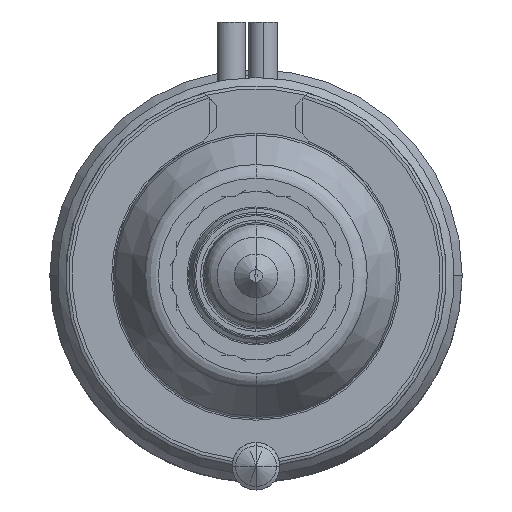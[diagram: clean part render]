
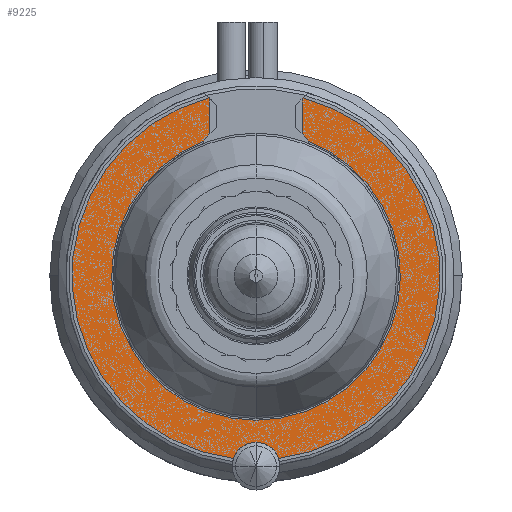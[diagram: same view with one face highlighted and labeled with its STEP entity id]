
A CAD part, front view. The second image highlights one B-rep face of the part: STEP entity #9225.
In plain terms, the highlighted planar face has unit normal (0, -1, 0).
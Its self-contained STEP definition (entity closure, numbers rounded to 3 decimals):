
#596=DIRECTION('',(0.707,0.,-0.707));
#597=VECTOR('',#596,0.092);
#598=CARTESIAN_POINT('',(-2.965,-22.,11.215));
#599=LINE('',#598,#597);
#1555=CARTESIAN_POINT('',(0.,-22.,6.2));
#1556=DIRECTION('',(0.,1.,0.));
#1557=DIRECTION('',(0.725,0.,0.689));
#1558=AXIS2_PLACEMENT_3D('',#1555,#1556,#1557);
#1570=CARTESIAN_POINT('',(0.,-22.,-12.));
#1571=DIRECTION('',(0.,1.,0.));
#1572=DIRECTION('',(-0.946,0.,0.325));
#1573=AXIS2_PLACEMENT_3D('',#1570,#1571,#1572);
#1589=CARTESIAN_POINT('',(0.,-22.,0.));
#1590=DIRECTION('',(0.,1.,0.));
#1591=DIRECTION('',(-0.122,0.,-0.992));
#1592=AXIS2_PLACEMENT_3D('',#1589,#1590,#1591);
#1601=CARTESIAN_POINT('',(0.,-22.,0.));
#1602=DIRECTION('',(0.,1.,0.));
#1603=DIRECTION('',(0.256,0.,0.967));
#1604=AXIS2_PLACEMENT_3D('',#1601,#1602,#1603);
#1617=DIRECTION('',(-0.707,0.,-0.707));
#1618=VECTOR('',#1617,0.092);
#1619=CARTESIAN_POINT('',(2.965,-22.,11.215));
#1620=LINE('',#1619,#1618);
#1625=DIRECTION('',(0.,0.,-1.));
#1626=VECTOR('',#1625,2.195);
#1627=CARTESIAN_POINT('',(2.9,-22.,11.15));
#1628=LINE('',#1627,#1626);
#1656=DIRECTION('',(0.,0.,1.));
#1657=VECTOR('',#1656,2.195);
#1658=CARTESIAN_POINT('',(-2.9,-22.,8.955));
#1659=LINE('',#1658,#1657);
#1691=CARTESIAN_POINT('',(0.,-22.,6.2));
#1692=DIRECTION('',(0.,1.,0.));
#1693=DIRECTION('',(-0.82,0.,0.572));
#1694=AXIS2_PLACEMENT_3D('',#1691,#1692,#1693);
#1706=CARTESIAN_POINT('',(0.,-22.,0.));
#1707=DIRECTION('',(0.,-1.,0.));
#1708=DIRECTION('',(-0.361,0.,0.933));
#1709=AXIS2_PLACEMENT_3D('',#1706,#1707,#1708);
#7413=CARTESIAN_POINT('',(2.965,-22.,11.215));
#7414=CARTESIAN_POINT('',(2.9,-22.,11.15));
#7415=VERTEX_POINT('',#7413);
#7416=VERTEX_POINT('',#7414);
#7421=CARTESIAN_POINT('',(-2.965,-22.,11.215));
#7422=CARTESIAN_POINT('',(-2.9,-22.,11.15));
#7423=VERTEX_POINT('',#7421);
#7424=VERTEX_POINT('',#7422);
#7459=CARTESIAN_POINT('',(2.9,-22.,8.955));
#7460=CARTESIAN_POINT('',(3.281,-22.,8.488));
#7461=VERTEX_POINT('',#7459);
#7462=VERTEX_POINT('',#7460);
#7463=CARTESIAN_POINT('',(-3.281,-22.,8.488));
#7464=CARTESIAN_POINT('',(-2.9,-22.,8.955));
#7465=VERTEX_POINT('',#7463);
#7466=VERTEX_POINT('',#7464);
#7608=CARTESIAN_POINT('',(-1.419,-22.,-11.513));
#7609=CARTESIAN_POINT('',(1.419,-22.,-11.513));
#7610=VERTEX_POINT('',#7608);
#7611=VERTEX_POINT('',#7609);
#9201=CARTESIAN_POINT('',(0.,-22.,0.));
#9202=DIRECTION('',(0.,-1.,0.));
#9203=DIRECTION('',(-1.,0.,0.));
#9204=AXIS2_PLACEMENT_3D('',#9201,#9202,#9203);
#9205=PLANE('',#9204);
#9206=ORIENTED_EDGE('',*,*,#8688,.F.);
#9208=ORIENTED_EDGE('',*,*,#9207,.T.);
#9209=ORIENTED_EDGE('',*,*,#8808,.T.);
#9211=ORIENTED_EDGE('',*,*,#9210,.F.);
#9213=ORIENTED_EDGE('',*,*,#9212,.F.);
#9215=ORIENTED_EDGE('',*,*,#9214,.T.);
#9216=ORIENTED_EDGE('',*,*,#9180,.F.);
#9218=ORIENTED_EDGE('',*,*,#9217,.F.);
#9220=ORIENTED_EDGE('',*,*,#9219,.F.);
#9222=ORIENTED_EDGE('',*,*,#9221,.T.);
#9223=EDGE_LOOP('',(#9206,#9208,#9209,#9211,#9213,#9215,#9216,#9218,#9220,
#9222));
#9224=FACE_OUTER_BOUND('',#9223,.F.);
#9225=ADVANCED_FACE('',(#9224),#9205,.T.);
#1559=CIRCLE('',#1558,4.);
#1574=CIRCLE('',#1573,1.5);
#1593=CIRCLE('',#1592,11.6);
#1605=CIRCLE('',#1604,11.6);
#1695=CIRCLE('',#1694,4.);
#1710=CIRCLE('',#1709,9.1);
#8688=EDGE_CURVE('',#7610,#7611,#1574,.T.);
#8808=EDGE_CURVE('',#7423,#7424,#599,.T.);
#9180=EDGE_CURVE('',#7461,#7462,#1559,.T.);
#9207=EDGE_CURVE('',#7610,#7423,#1593,.T.);
#9210=EDGE_CURVE('',#7466,#7424,#1659,.T.);
#9212=EDGE_CURVE('',#7465,#7466,#1695,.T.);
#9214=EDGE_CURVE('',#7465,#7462,#1710,.T.);
#9217=EDGE_CURVE('',#7416,#7461,#1628,.T.);
#9219=EDGE_CURVE('',#7415,#7416,#1620,.T.);
#9221=EDGE_CURVE('',#7415,#7611,#1605,.T.);
